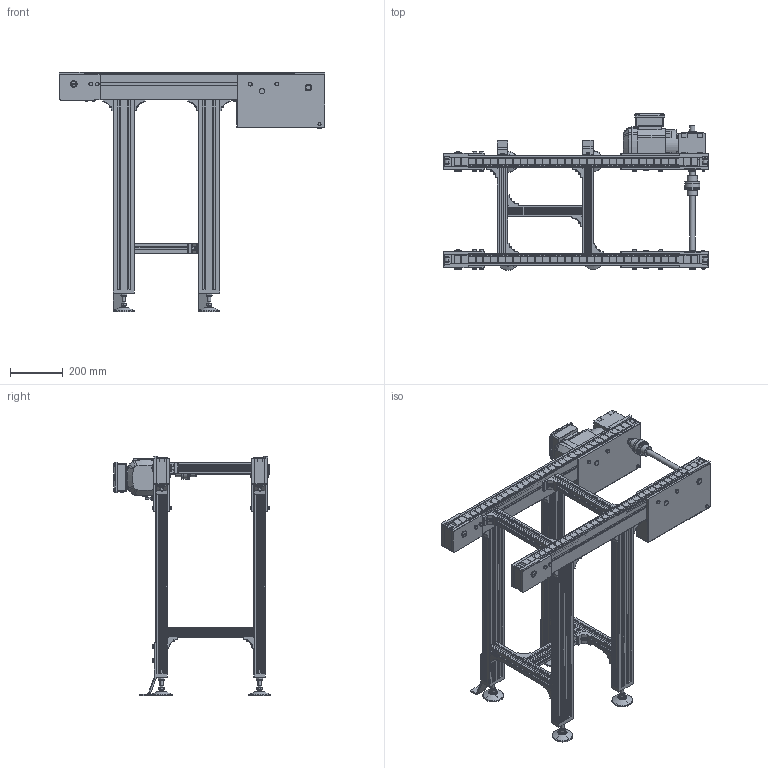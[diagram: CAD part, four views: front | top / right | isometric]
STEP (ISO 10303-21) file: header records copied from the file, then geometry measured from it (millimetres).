
FILE_DESCRIPTION(/* description */ (''),/* implementation_level */ '2;1');
FILE_NAME(/* name */ 'C:\Marketing\01_Versamove-SPU_STEP-Dateien-Homepage\VersamoveStandard\B400\STEP-Dateien\Flachplattenförderer_FPF-P-2045_B400_L1000.stp',/* time_stamp */ '2016-12-21T08:07:38+01:00',/* author */ ('herbert.engels'),/* organization */ (''),/* preprocessor_version */ 'ST-DEVELOPER v15.6',/* originating_system */ 'Autodesk Inventor 2015',/* authorisation */ '');
FILE_SCHEMA (('CONFIG_CONTROL_DESIGN'));
Products named in the file (1): Flachplattenförderer_FPF-P-2045_B400_L1000
Bounding box: 1000.5 x 590.57 x 905.3 mm (x, y, z)
Volume: 18497263.6 mm3; surface area: 4753993 mm2
Topology: 5 solids, 5 shells, 5460 faces, 15097 edges, 9711 vertices
Faces by surface type: plane 3598, cylinder 1334, cone 338, torus 123, sphere 50, bspline 17
Full cylindrical faces by diameter (mm): 2 x6, 6 x12, 6.647 x8, 7.323 x4, 8 x59, 8.7 x4, 9 x8, 10 x4, 10.066 x1, 11.4 x18, 12 x8, 13 x68, 13.6 x8, 14 x40, 15 x8, 18 x4, 19 x3, 19.77 x4, 20 x15, 25 x1, 25.05 x4, 28 x1, 30 x2, 40 x2, 53 x1, 54 x2, 56 x3, 79 x4
Entity records: 179170 total; most frequent: CARTESIAN_POINT 35195, ORIENTED_EDGE 28960, DIRECTION 27840, EDGE_CURVE 14473, LINE 10242, VECTOR 10242, VERTEX_POINT 9558, AXIS2_PLACEMENT_3D 8799
